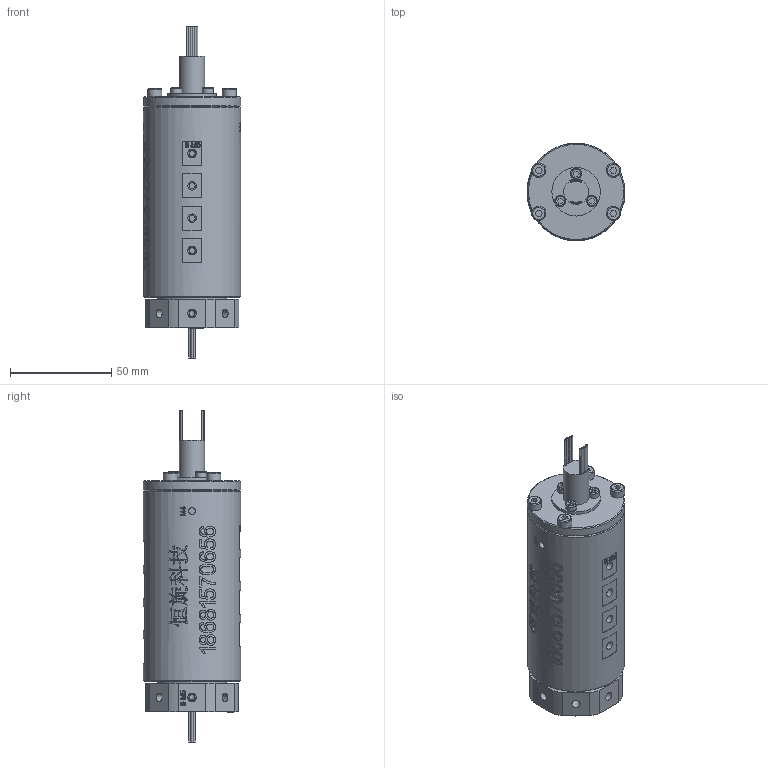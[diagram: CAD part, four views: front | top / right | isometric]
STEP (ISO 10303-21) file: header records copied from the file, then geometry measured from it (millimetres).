
FILE_DESCRIPTION(/* description */ (''),/* implementation_level */ '2;1');
FILE_NAME(/* name */ 'HQ08005-12M-3D模型.stp',/* time_stamp */ '2025-09-01T17:51:58+08:00',/* author */ (''),/* organization */ (''),/* preprocessor_version */ 'ST-DEVELOPER v16.7',/* originating_system */ 'SIEMENS PLM Software NX 12.0',/* authorisation */ '');
FILE_SCHEMA (('AUTOMOTIVE_DESIGN { 1 0 10303 214 3 1 1 1 }'));
Length unit declared in the file: millimetre
Products named in the file (1): AdmiB44865CDwe0o
Bounding box: 48.13 x 48 x 163.9 mm (x, y, z)
Volume: 205137.9 mm3; surface area: 29692.3 mm2
Topology: 1 solids, 4 shells, 1158 faces, 3022 edges, 2007 vertices
Faces by surface type: plane 540, extrusion 417, cylinder 147, bspline 38, cone 9, torus 7
Full cylindrical faces by diameter (mm): 0.8 x24, 3 x27, 3.4 x9, 4.1 x8, 4.2 x24, 5.5 x3, 6 x1, 7 x4, 12.4 x1, 23.9 x1, 34 x1, 42 x1, 48 x2
Entity records: 41965 total; most frequent: CARTESIAN_POINT 17708, ORIENTED_EDGE 5622, DIRECTION 3295, EDGE_CURVE 2811, B_SPLINE_CURVE_WITH_KNOTS 2200, VERTEX_POINT 1928, EDGE_LOOP 1435, ADVANCED_FACE 1154
